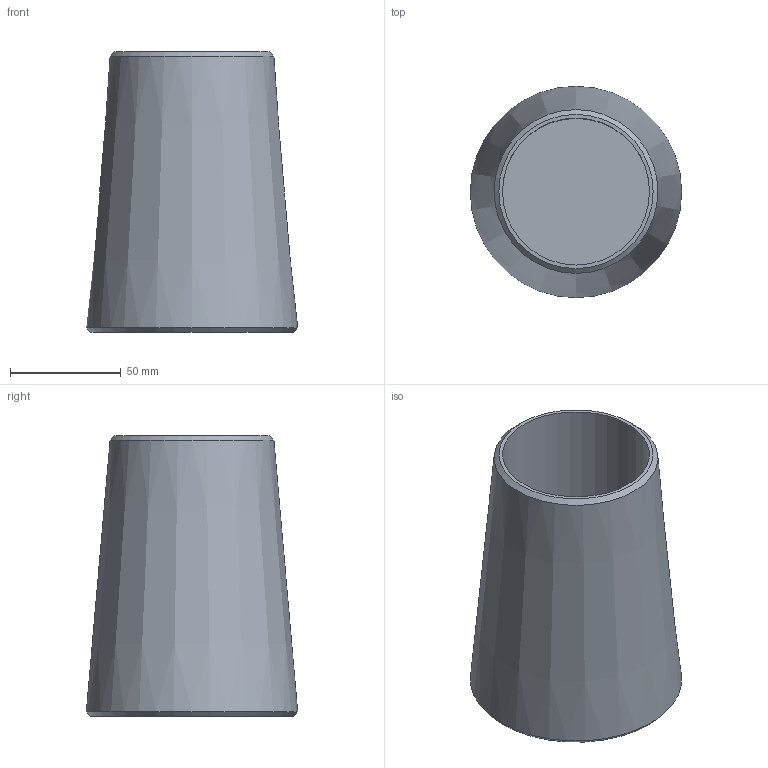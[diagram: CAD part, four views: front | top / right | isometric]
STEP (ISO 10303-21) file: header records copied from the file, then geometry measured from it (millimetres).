
FILE_DESCRIPTION(/* description */ (''),/* implementation_level */ '2;1');
FILE_NAME(/* name */ 'C:\Vault_WS\Designs\SB\01-PX\Verzinkt\ZSS\520 - Kontermutter\520-064-KMU.stp',/* time_stamp */ '2020-06-18T12:35:57+02:00',/* author */ ('schwarz'),/* organization */ (''),/* preprocessor_version */ 'ST-DEVELOPER v16.1',/* originating_system */ 'Autodesk Inventor 2016',/* authorisation */ '');
FILE_SCHEMA (('AUTOMOTIVE_DESIGN { 1 0 10303 214 3 1 1 }'));
Length unit declared in the file: millimetre
Products named in the file (1): Kontermutter 520 064 Kunde
Bounding box: 95.65 x 95.65 x 127 mm (x, y, z)
Volume: 391881.9 mm3; surface area: 64713.7 mm2
Topology: 1 solids, 1 shells, 7 faces, 10 edges, 6 vertices
Faces by surface type: cone 3, plane 3, cylinder 1
Full cylindrical faces by diameter (mm): 66.5 x1
Entity records: 158 total; most frequent: DIRECTION 28, CARTESIAN_POINT 20, AXIS2_PLACEMENT_3D 14, EDGE_LOOP 12, ORIENTED_EDGE 12, FACE_OUTER_BOUND 7, ADVANCED_FACE 7, CIRCLE 6
